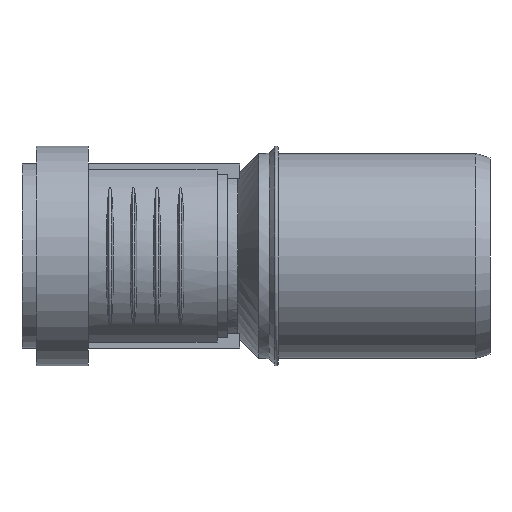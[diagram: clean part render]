
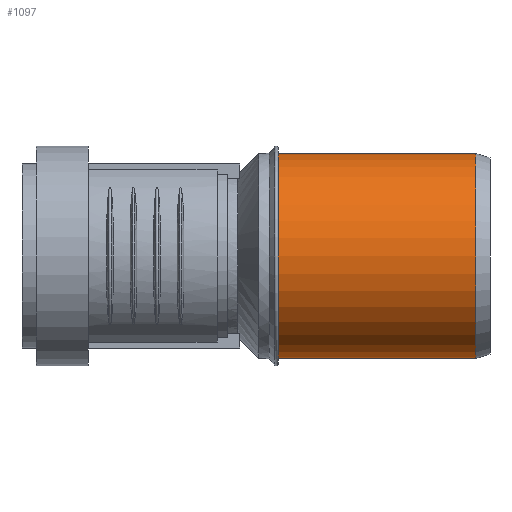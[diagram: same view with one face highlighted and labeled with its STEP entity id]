
A CAD part, left-side view. The second image highlights one B-rep face of the part: STEP entity #1097.
In plain terms, the highlighted cylindrical face has radius 25.075 mm (diameter 50.15 mm), a full revolution.
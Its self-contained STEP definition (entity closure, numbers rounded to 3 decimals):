
#124=CYLINDRICAL_SURFACE($,#1182,25.075);
#148=FACE_BOUND($,#277,.T.);
#208=FACE_OUTER_BOUND($,#276,.T.);
#276=EDGE_LOOP($,(#755));
#277=EDGE_LOOP($,(#756));
#427=CIRCLE($,#1181,25.075);
#428=CIRCLE($,#1183,25.075);
#486=VERTEX_POINT($,#1660);
#487=VERTEX_POINT($,#1663);
#599=EDGE_CURVE($,#486,#486,#427,.T.);
#600=EDGE_CURVE($,#487,#487,#428,.T.);
#755=ORIENTED_EDGE($,*,*,#600,.F.);
#756=ORIENTED_EDGE($,*,*,#599,.T.);
#1097=ADVANCED_FACE($,(#208,#148),#124,.T.);
#1181=AXIS2_PLACEMENT_3D($,#1661,#1331,#1332);
#1182=AXIS2_PLACEMENT_3D($,#1662,#1333,#1334);
#1183=AXIS2_PLACEMENT_3D($,#1664,#1335,#1336);
#1331=DIRECTION('center_axis',(0.,-1.,0.));
#1332=DIRECTION('ref_axis',(1.,0.,0.));
#1333=DIRECTION('center_axis',(0.,-1.,0.));
#1334=DIRECTION('ref_axis',(1.,0.,0.));
#1335=DIRECTION('center_axis',(0.,-1.,0.));
#1336=DIRECTION('ref_axis',(1.,0.,0.));
#1660=CARTESIAN_POINT('',(25.075,51.8,0.));
#1661=CARTESIAN_POINT('Origin',(0.,51.8,0.));
#1662=CARTESIAN_POINT('Origin',(0.,27.65,0.));
#1663=CARTESIAN_POINT('',(25.075,3.5,0.));
#1664=CARTESIAN_POINT('Origin',(0.,3.5,0.));
